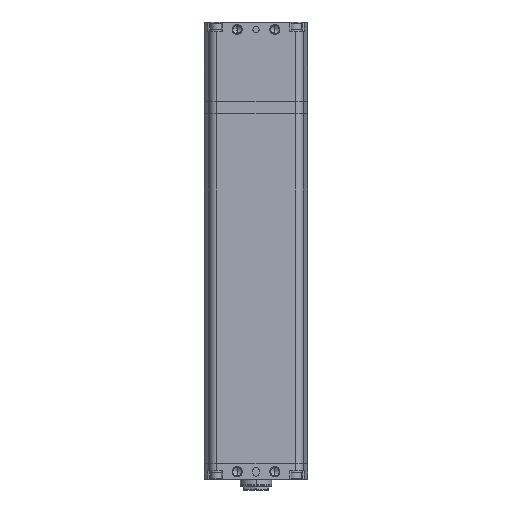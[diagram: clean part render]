
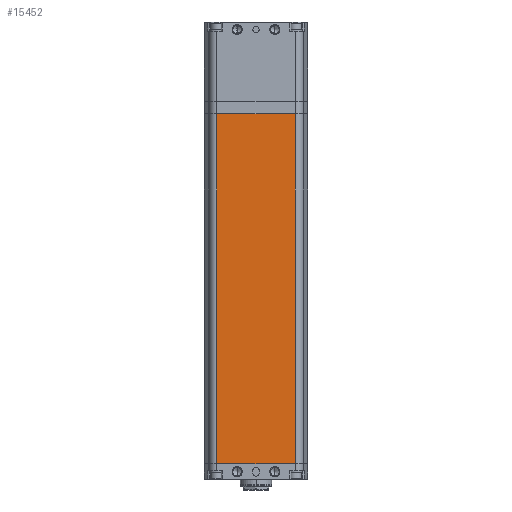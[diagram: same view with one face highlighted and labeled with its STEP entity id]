
A CAD part, front view. The second image highlights one B-rep face of the part: STEP entity #15452.
In plain terms, the highlighted planar face has unit normal (0, -1, 0).
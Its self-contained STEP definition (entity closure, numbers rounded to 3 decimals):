
#109 = CARTESIAN_POINT ( 'NONE',  ( -31.138, -41., -1073. ) ) ;
#1390 = VERTEX_POINT ( 'NONE', #9089 ) ;
#1392 = LINE ( 'NONE', #16613, #12183 ) ;
#1465 = VECTOR ( 'NONE', #4918, 1000. ) ;
#4522 = CARTESIAN_POINT ( 'NONE',  ( -31.138, -41., -73. ) ) ;
#4602 = DIRECTION ( 'NONE',  ( 0., 0., -1. ) ) ;
#4672 = DIRECTION ( 'NONE',  ( 1., 0., 0. ) ) ;
#4918 = DIRECTION ( 'NONE',  ( 0., 0., 1. ) ) ;
#5320 = DIRECTION ( 'NONE',  ( 1., 0., 0. ) ) ;
#8201 = DIRECTION ( 'NONE',  ( 0., -1., 0. ) ) ;
#8547 = VECTOR ( 'NONE', #5320, 1000. ) ;
#8605 = VECTOR ( 'NONE', #20749, 1000. ) ;
#9089 = CARTESIAN_POINT ( 'NONE',  ( 31.138, -41., -73. ) ) ;
#9456 = ORIENTED_EDGE ( 'NONE', *, *, #11594, .T. ) ;
#9724 = VERTEX_POINT ( 'NONE', #13443 ) ;
#10291 = LINE ( 'NONE', #17166, #8547 ) ;
#11395 = EDGE_LOOP ( 'NONE', ( #9456, #14019, #19402, #21471 ) ) ;
#11594 = EDGE_CURVE ( 'NONE', #22011, #16576, #22212, .T. ) ;
#11795 = CARTESIAN_POINT ( 'NONE',  ( 31.138, -41., -1073. ) ) ;
#12183 = VECTOR ( 'NONE', #4672, 1000. ) ;
#12252 = EDGE_CURVE ( 'NONE', #22011, #1390, #1392, .T. ) ;
#13443 = CARTESIAN_POINT ( 'NONE',  ( 31.138, -41., -351. ) ) ;
#13869 = EDGE_CURVE ( 'NONE', #9724, #1390, #16765, .T. ) ;
#14019 = ORIENTED_EDGE ( 'NONE', *, *, #19846, .T. ) ;
#14290 = FACE_OUTER_BOUND ( 'NONE', #11395, .T. ) ;
#15452 = ADVANCED_FACE ( 'NONE', ( #14290 ), #20048, .T. ) ;
#16576 = VERTEX_POINT ( 'NONE', #19689 ) ;
#16613 = CARTESIAN_POINT ( 'NONE',  ( -41., -41., -73. ) ) ;
#16765 = LINE ( 'NONE', #11795, #1465 ) ;
#17166 = CARTESIAN_POINT ( 'NONE',  ( -41., -41., -351. ) ) ;
#17187 = CARTESIAN_POINT ( 'NONE',  ( -41., -41., -1073. ) ) ;
#19402 = ORIENTED_EDGE ( 'NONE', *, *, #13869, .T. ) ;
#19574 = AXIS2_PLACEMENT_3D ( 'NONE', #17187, #8201, #4602 ) ;
#19689 = CARTESIAN_POINT ( 'NONE',  ( -31.138, -41., -351. ) ) ;
#19846 = EDGE_CURVE ( 'NONE', #16576, #9724, #10291, .T. ) ;
#20048 = PLANE ( 'NONE',  #19574 ) ;
#20749 = DIRECTION ( 'NONE',  ( 0., 0., -1. ) ) ;
#21471 = ORIENTED_EDGE ( 'NONE', *, *, #12252, .F. ) ;
#22011 = VERTEX_POINT ( 'NONE', #4522 ) ;
#22212 = LINE ( 'NONE', #109, #8605 ) ;
